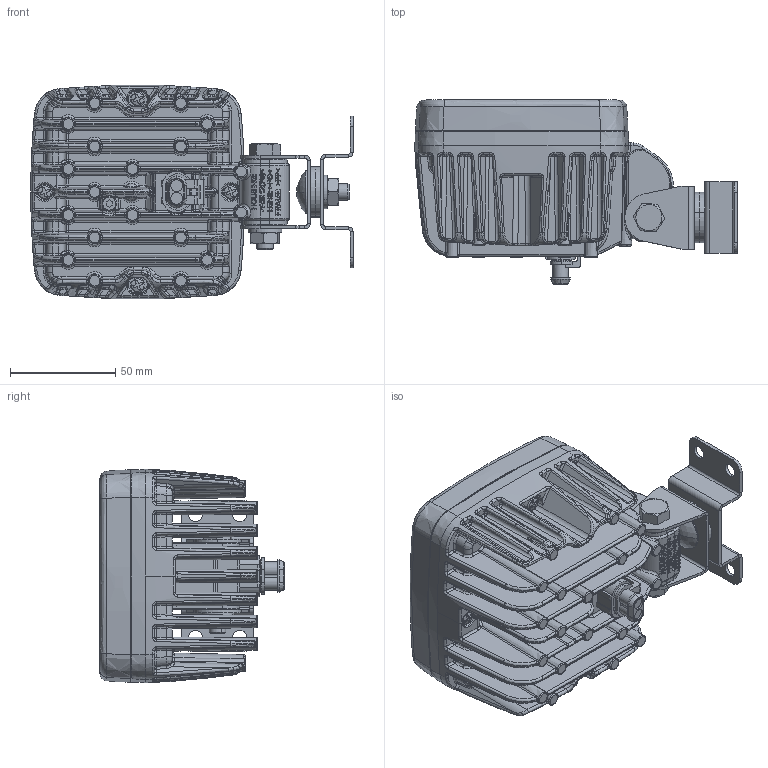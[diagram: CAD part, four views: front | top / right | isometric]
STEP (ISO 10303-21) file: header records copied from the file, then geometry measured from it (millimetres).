
FILE_DESCRIPTION (( 'LM4348' ), '1' );
FILE_NAME ('LED-MARTIN_LM4348.STEP', '2016-10-17T10:57:20', ( '' ), ( '' ), 'SwSTEP 2.0', 'SolidWorks 2013', '' );
FILE_SCHEMA (( 'AUTOMOTIVE_DESIGN' ));
Length unit declared in the file: millimetre
Products named in the file (18): 6; Sruba M8_W81; 3; 2; 1_1; 1; LM4348; 5; Konektor Tyco_L308; c-282080-1-c-3d_L308; c-282104-1-b-3d_L308; 14; 133; 12; 11; 9; 8; 7
Assembly tree (23 placements, depth 3):
  LM4348
    1
    1_1
    2
    3
    Sruba M8_W81
    6  x2
    7  x2
    8
    9  x2
    11
    12  x4
    133
    14
    Konektor Tyco_L308
      c-282104-1-b-3d_L308
      c-282080-1-c-3d_L308
    5
Bounding box: 153.4 x 87.5 x 101.41 mm (x, y, z)
Volume: 420529 mm3; surface area: 185632.8 mm2
Topology: 22 solids, 26 shells, 4174 faces, 10330 edges, 6122 vertices
Faces by surface type: plane 1275, bspline 1171, cylinder 871, torus 430, cone 266, sphere 161
Entity records: 151352 total; most frequent: CARTESIAN_POINT 63899, ORIENTED_EDGE 19702, DIRECTION 16517, EDGE_CURVE 9851, AXIS2_PLACEMENT_3D 6418, VERTEX_POINT 5910, EDGE_LOOP 4161, FACE_OUTER_BOUND 4039
